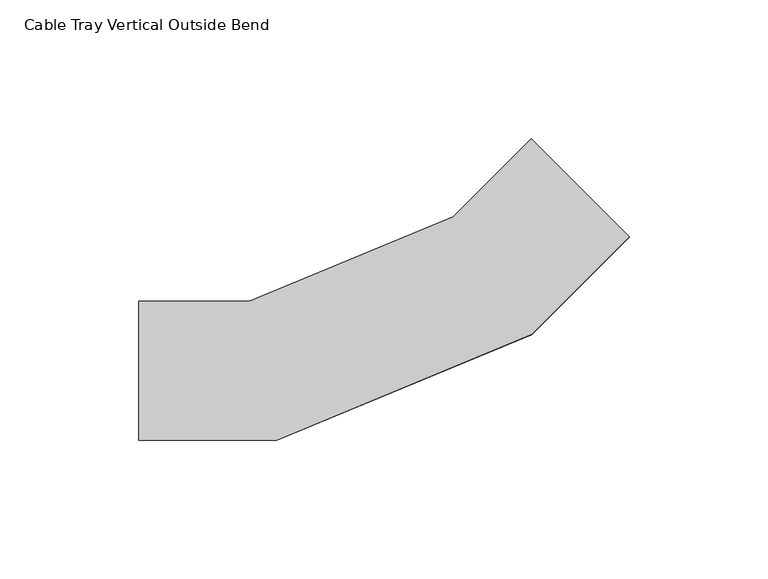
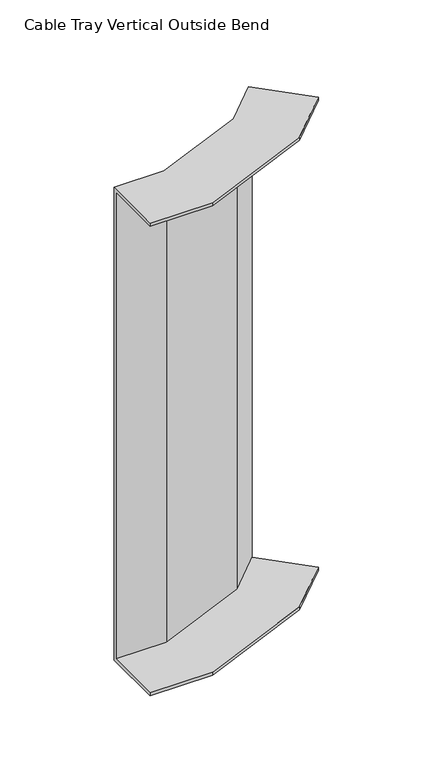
"""IFC4 building model written with IfcOpenShell, lengths in millimetres: cable carrier fitting geometry, Cable Tray Vertical Outside Bend : ELEC_SUB_CT_N2402."""

import ifcopenshell
import ifcopenshell.guid

model = None  # the IFC model being written
_history = None  # IfcOwnerHistory: only IFC2X3 demands one
_inside = {}  # id of a spatial element -> (the spatial element, [elements in it])
_under = {}  # id of a project, library or spatial element -> (it, [spatial elements below it])
_declared = {}  # id of a project -> (the project, [libraries it declares])
_typed = {}  # id of a type object -> (the type object, [elements of that type])
_made_of = {}  # id of a material, layer set ... -> (it, [elements and type objects made of it])


def new_model(schema):
    """Start an empty IFC model of exactly this schema.

    Asked for "IFC4X3", IfcOpenShell would pick the latest addendum, in which some entities
    have other attributes; the version numbers below select the first issue.
    IFC2X3 requires an IfcOwnerHistory on every rooted entity: one is made here for all.
    """
    global model, _history
    if schema == "IFC4X3":
        model = ifcopenshell.file(schema_version=(4, 3, 0, 0))
    else:
        model = ifcopenshell.file(schema=schema)
    _inside.clear()
    _under.clear()
    _declared.clear()
    _typed.clear()
    _made_of.clear()
    _history = None
    if model.schema == "IFC2X3":
        org = make("IfcOrganization", Name="unknown")
        user = make(
            "IfcPersonAndOrganization",
            ThePerson=make("IfcPerson", FamilyName="unknown"),
            TheOrganization=org,
        )
        app = make(
            "IfcApplication",
            ApplicationDeveloper=org,
            Version="unknown",
            ApplicationFullName="unknown",
            ApplicationIdentifier="unknown",
        )
        _history = make(
            "IfcOwnerHistory",
            OwningUser=user,
            OwningApplication=app,
            ChangeAction="ADDED",
            CreationDate=0,
        )
    return model


def make(cls, **values):
    """One entity of the class cls with the attributes given. An attribute that is None is left unset."""
    return model.create_entity(
        cls, **{name: value for name, value in values.items() if value is not None}
    )


def rooted(cls, **values):
    """An entity with a GlobalId (a new one), such as an element, a storey or a relation."""
    return make(cls, GlobalId=ifcopenshell.guid.new(), OwnerHistory=_history, **values)


def si_unit(unit_type, name, prefix=None):
    """IfcSIUnit, for example si_unit("LENGTHUNIT", "METRE", prefix="MILLI")."""
    return make("IfcSIUnit", UnitType=unit_type, Prefix=prefix, Name=name)


def assignment(units):
    """IfcUnitAssignment: the units of a project."""
    return None if units is None else make("IfcUnitAssignment", Units=units)


def point(xyz):
    """IfcCartesianPoint."""
    return None if xyz is None else make("IfcCartesianPoint", Coordinates=xyz)


def direction(xyz):
    """IfcDirection."""
    return None if xyz is None else make("IfcDirection", DirectionRatios=xyz)


def frame(location, z_axis=None, x_axis=None):
    """IfcAxis2Placement3D, a coordinate frame: its origin and axes. An axis left out is left unset."""
    return make(
        "IfcAxis2Placement3D",
        Location=point(location),
        Axis=direction(z_axis),
        RefDirection=direction(x_axis),
    )


def origin():
    """The frame at (0, 0, 0) with its axes left unset."""
    return frame((0.0, 0.0, 0.0))


def place(relative_to, where):
    """IfcLocalPlacement: puts the frame where relative to a parent placement (None: the world)."""
    return make(
        "IfcLocalPlacement", PlacementRelTo=relative_to, RelativePlacement=where
    )


def context(
    kind, dimensions, precision=None, world=None, true_north=None, identifier=None
):
    """IfcGeometricRepresentationContext, for example the 3D "Model" context."""
    return make(
        "IfcGeometricRepresentationContext",
        ContextIdentifier=identifier,
        ContextType=kind,
        CoordinateSpaceDimension=dimensions,
        Precision=precision,
        WorldCoordinateSystem=world,
        TrueNorth=true_north,
    )


def project(units=None, contexts=None):
    """IfcProject with its units and contexts."""
    return rooted(
        "IfcProject",
        Name="project",
        RepresentationContexts=contexts,
        UnitsInContext=assignment(units),
    )


def spatial(cls, under=None, at=None, **own):
    """A site, building, storey or space (cls), placed at a placement, below another one or the project."""
    s = rooted(cls, ObjectPlacement=at, **own)
    if under is not None:
        _under.setdefault(under.id(), (under, []))[1].append(s)
    return s


def faces_of(points, faces, orient=None, outer=None):
    """IfcFace entities. A face is a list of loops; a loop is a list of indices into points, from 0.

    orient and outer hold one flag for each loop. By default every Orientation is true, the
    first loop of a face is its IfcFaceOuterBound and the others are IfcFaceBound.
    """
    made = []
    for i, loops in enumerate(faces):
        bounds = []
        for j, loop in enumerate(loops):
            is_outer = j == 0 if outer is None else outer[i][j]
            bounds.append(
                make(
                    "IfcFaceOuterBound" if is_outer else "IfcFaceBound",
                    Bound=make("IfcPolyLoop", Polygon=[points[k] for k in loop]),
                    Orientation=True if orient is None else orient[i][j],
                )
            )
        made.append(make("IfcFace", Bounds=bounds))
    return made


def faceted_brep(points, faces, orient=None, outer=None, voids=None):
    """IfcFacetedBrep: a solid bounded by flat faces; with voids (closed shells), ...WithVoids."""
    shared = [point(p) for p in points]
    hull = make("IfcClosedShell", CfsFaces=faces_of(shared, faces, orient, outer))
    if voids is None:
        return make("IfcFacetedBrep", Outer=hull)
    return make(
        "IfcFacetedBrepWithVoids",
        Outer=hull,
        Voids=[
            make(cls, CfsFaces=faces_of(shared, fs, o, b)) for cls, fs, o, b in voids
        ],
    )


def shape(context_of_items, identifier, shape_type, items):
    """IfcShapeRepresentation: the items that make up one representation, for example the "Body"."""
    return make(
        "IfcShapeRepresentation",
        ContextOfItems=context_of_items,
        RepresentationIdentifier=identifier,
        RepresentationType=shape_type,
        Items=items,
    )


def source(mapping_origin, context_of_items, identifier, shape_type, items):
    """IfcRepresentationMap: a shape defined once, which mapped items show again and again."""
    return make(
        "IfcRepresentationMap",
        MappingOrigin=mapping_origin,
        MappedRepresentation=shape(context_of_items, identifier, shape_type, items),
    )


def transform(
    local_origin,
    x_axis=None,
    y_axis=None,
    z_axis=None,
    scale=None,
    scale2=None,
    scale3=None,
    uniform=True,
):
    """IfcCartesianTransformationOperator3D, or its non-uniform kind. x_axis, y_axis, z_axis: its Axis1, 2, 3."""
    if uniform:
        return make(
            "IfcCartesianTransformationOperator3D",
            Axis1=direction(x_axis),
            Axis2=direction(y_axis),
            LocalOrigin=point(local_origin),
            Scale=scale,
            Axis3=direction(z_axis),
        )
    return make(
        "IfcCartesianTransformationOperator3DnonUniform",
        Axis1=direction(x_axis),
        Axis2=direction(y_axis),
        LocalOrigin=point(local_origin),
        Scale=scale,
        Axis3=direction(z_axis),
        Scale2=scale2,
        Scale3=scale3,
    )


def mapped(mapping_source, mapping_target):
    """IfcMappedItem: shows the shape of a source again, moved by a transform."""
    return make(
        "IfcMappedItem", MappingSource=mapping_source, MappingTarget=mapping_target
    )


def made_of(thing, what):
    """Note that an element or type object is made of a material, layer set ...; save() writes the relation."""
    if what is not None:
        _made_of.setdefault(what.id(), (what, []))[1].append(thing)
    return thing


def element(
    cls,
    number,
    at=None,
    inside=None,
    cuts=None,
    type_object=None,
    material=None,
    context=None,
    identifier="Body",
    shape_type=None,
    held_by="IfcProductDefinitionShape",
    body=None,
    shapes=None,
    **own,
):
    """One element of the class cls, such as IfcWall. Its Tag is "e" and its number.

    at: its placement. inside: the storey or other place that contains it. cuts: it is an
    opening in that element (IfcRelVoidsElement). A single representation is given by context,
    identifier, shape_type and body (its items); several are given by shapes. held_by: the class
    of the entity that holds the representations. save() writes the other relations.
    """
    e = rooted(cls, Tag="e%d" % number, ObjectPlacement=at, **own)
    if body is not None:
        shapes = [shape(context, identifier, shape_type, body)]
    if shapes is not None:
        e.Representation = make(held_by, Representations=shapes)
    if inside is not None:
        _inside.setdefault(inside.id(), (inside, []))[1].append(e)
    if cuts is not None:
        rooted(
            "IfcRelVoidsElement", RelatingBuildingElement=cuts, RelatedOpeningElement=e
        )
    if type_object is not None:
        _typed.setdefault(type_object.id(), (type_object, []))[1].append(e)
    return made_of(e, material)


def aggregate(whole, parts):
    """IfcRelAggregates: a whole, such as a stair, and the parts it consists of."""
    return rooted("IfcRelAggregates", RelatingObject=whole, RelatedObjects=parts)


def save(model, path):
    """Write the relations noted so far, then the file.

    IfcRelAggregates (storeys below a building ...), IfcRelContainedInSpatialStructure (elements
    in a storey), IfcRelDefinesByType, IfcRelAssociatesMaterial and IfcRelDeclares: one each for
    every whole, place, type object, material and project.
    """
    for whole, parts in _under.values():
        aggregate(whole, parts)
    for where, things in _inside.values():
        rooted(
            "IfcRelContainedInSpatialStructure",
            RelatedElements=things,
            RelatingStructure=where,
        )
    for kind, things in _typed.values():
        rooted("IfcRelDefinesByType", RelatedObjects=things, RelatingType=kind)
    for what, things in _made_of.values():
        rooted("IfcRelAssociatesMaterial", RelatedObjects=things, RelatingMaterial=what)
    for by, libraries in _declared.values():
        rooted("IfcRelDeclares", RelatingContext=by, RelatedDefinitions=libraries)
    model.write(path)


def cable_tray_vertical_outside_bend_d71164e9(model_context):
    return source(origin(), model_context, "Body", "Brep", [
        faceted_brep([(-93.1980522, -25.0, 200.0), (-93.1980522, 25.0, 200.0), (-93.1980522, 25.0, -200.0), (-93.1980522, -25.0, -200.0), (-93.1980522, -25.0, -197.46), (-93.1980522, 22.46, -197.46), (-93.1980522, 22.46, 197.46), (-93.1980522, -25.0, 197.46), (83.578644, 48.2233056, 200.0), (83.578644, 48.2233056, 197.46), (50.019356, 81.7825933, 197.46), (50.019356, 81.7825933, -197.46), (83.578644, 48.2233056, -197.46), (83.578644, 48.2233056, -200.0), (48.2233048, 83.5786445, -200.0), (48.2233048, 83.5786445, 200.0), (-43.46996, -25.0, 200.0), (48.415573, 13.0602342, 200.0), (20.0928479, 55.4481874, 200.0), (-53.4155785, 25.0, 200.0), (-53.4155785, 25.0, -200.0), (20.0928479, 55.4481874, -200.0), (48.415573, 13.0602342, -200.0), (-43.46996, -25.0, -200.0), (-43.46996, -25.0, -197.46), (48.415573, 13.0602342, -197.46), (21.5316424, 53.2948794, -197.46), (-52.9103411, 22.46, -197.46), (-52.9103411, 22.46, 197.46), (21.5316424, 53.2948794, 197.46), (48.415573, 13.0602342, 197.46), (-43.46996, -25.0, 197.46)], [[[0, 1, 2, 3, 4, 5, 6, 7]], [[8, 9, 10, 11, 12, 13, 14, 15]], [[1, 0, 16, 17, 8, 15, 18, 19]], [[2, 1, 19, 20]], [[3, 2, 20, 21, 14, 13, 22, 23]], [[4, 3, 23, 24]], [[5, 4, 24, 25, 12, 11, 26, 27]], [[6, 5, 27, 28]], [[7, 6, 28, 29, 10, 9, 30, 31]], [[0, 7, 31, 16]], [[20, 19, 18, 21]], [[24, 23, 22, 25]], [[28, 27, 26, 29]], [[16, 31, 30, 17]], [[21, 18, 15, 14]], [[25, 22, 13, 12]], [[29, 26, 11, 10]], [[17, 30, 9, 8]]]),
    ])


if __name__ == "__main__":
    model = new_model("IFC4")
    model_context = context("Model", 3, world=origin())
    ifc_project = project(units=[si_unit("LENGTHUNIT", "METRE", prefix="MILLI")], contexts=[model_context])
    site = spatial("IfcSite", under=ifc_project)
    building = spatial("IfcBuilding", under=site)
    placement = place(None, origin())
    cable_tray_vertical_outside_bend_shape = cable_tray_vertical_outside_bend_d71164e9(model_context)
    element("IfcCableCarrierFitting", 1, ObjectType="Cable Tray Vertical Outside Bend : ELEC_SUB_CT_N2402", at=placement, inside=building, context=model_context, shape_type="MappedRepresentation", body=[
        mapped(cable_tray_vertical_outside_bend_shape, transform((0.0, 0.0, 0.0), x_axis=(1.0, 0.0, 0.0), y_axis=(0.0, 1.0, 0.0), z_axis=(0.0, 0.0, 1.0))),
    ])
    save(model, "model.ifc")
